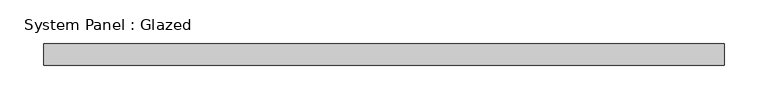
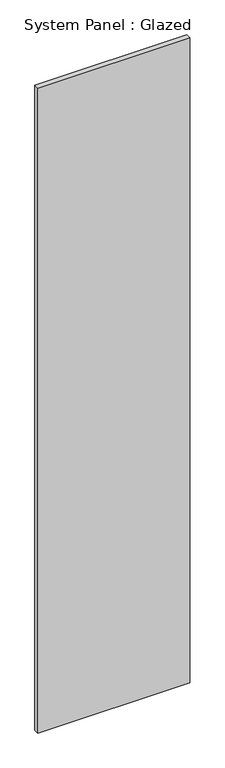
"""IFC4 building model written with IfcOpenShell, lengths in millimetres: plate geometry, System Panel : Glazed."""

from ifc_helpers import new_model, si_unit, origin, origin_with_axes, place, context, project, spatial, polyline, outline, extrude, source, transform, mapped, element, save


def system_panel_glazed_6f96cc8f(model_context):
    return source(origin(), model_context, "Body", "SweptSolid", [
        extrude(outline(polyline([(390.0, 24.5), (-390.0, 24.5), (-390.0, 49.5), (390.0, 49.5), (390.0, 24.5)])), origin_with_axes(), (0.0, 0.0, 1.0), 3500.0),
    ])


if __name__ == "__main__":
    model = new_model("IFC4")
    model_context = context("Model", 3, world=origin())
    ifc_project = project(units=[si_unit("LENGTHUNIT", "METRE", prefix="MILLI")], contexts=[model_context])
    site = spatial("IfcSite", under=ifc_project)
    building = spatial("IfcBuilding", under=site)
    placement = place(None, origin())
    system_panel_glazed_shape = system_panel_glazed_6f96cc8f(model_context)
    element("IfcPlate", 1, ObjectType="System Panel : Glazed", at=placement, inside=building, context=model_context, shape_type="MappedRepresentation", body=[
        mapped(system_panel_glazed_shape, transform((0.0, 0.0, 0.0), x_axis=(1.0, 0.0, 0.0), y_axis=(0.0, 1.0, 0.0), z_axis=(0.0, 0.0, 1.0))),
    ])
    save(model, "model.ifc")
